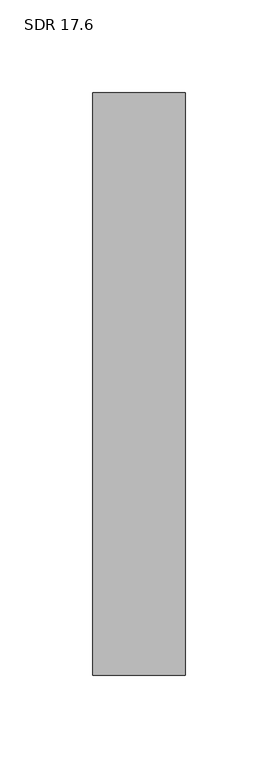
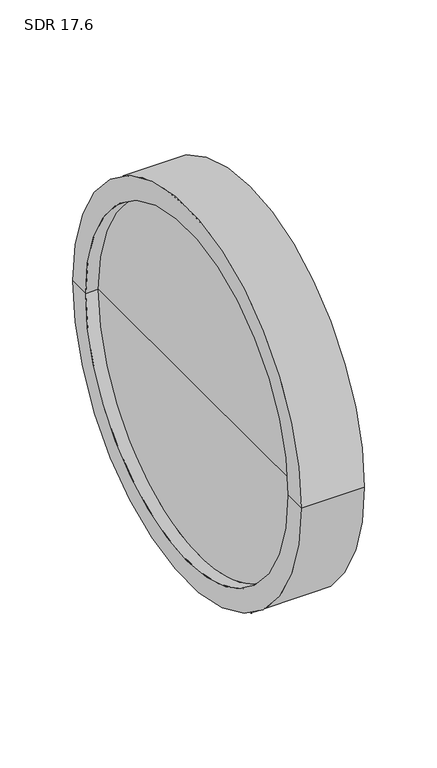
"""IFC4 building model written with IfcOpenShell, lengths in millimetres: pipe fitting geometry, Aquatherm - End Cap Butt-Weld : SDR 17.6."""

import ifcopenshell
import ifcopenshell.guid

model = None  # the IFC model being written
_history = None  # IfcOwnerHistory: only IFC2X3 demands one
_inside = {}  # id of a spatial element -> (the spatial element, [elements in it])
_under = {}  # id of a project, library or spatial element -> (it, [spatial elements below it])
_declared = {}  # id of a project -> (the project, [libraries it declares])
_typed = {}  # id of a type object -> (the type object, [elements of that type])
_made_of = {}  # id of a material, layer set ... -> (it, [elements and type objects made of it])


def new_model(schema):
    """Start an empty IFC model of exactly this schema.

    Asked for "IFC4X3", IfcOpenShell would pick the latest addendum, in which some entities
    have other attributes; the version numbers below select the first issue.
    IFC2X3 requires an IfcOwnerHistory on every rooted entity: one is made here for all.
    """
    global model, _history
    if schema == "IFC4X3":
        model = ifcopenshell.file(schema_version=(4, 3, 0, 0))
    else:
        model = ifcopenshell.file(schema=schema)
    _inside.clear()
    _under.clear()
    _declared.clear()
    _typed.clear()
    _made_of.clear()
    _history = None
    if model.schema == "IFC2X3":
        org = make("IfcOrganization", Name="unknown")
        user = make(
            "IfcPersonAndOrganization",
            ThePerson=make("IfcPerson", FamilyName="unknown"),
            TheOrganization=org,
        )
        app = make(
            "IfcApplication",
            ApplicationDeveloper=org,
            Version="unknown",
            ApplicationFullName="unknown",
            ApplicationIdentifier="unknown",
        )
        _history = make(
            "IfcOwnerHistory",
            OwningUser=user,
            OwningApplication=app,
            ChangeAction="ADDED",
            CreationDate=0,
        )
    return model


def make(cls, **values):
    """One entity of the class cls with the attributes given. An attribute that is None is left unset."""
    return model.create_entity(
        cls, **{name: value for name, value in values.items() if value is not None}
    )


def rooted(cls, **values):
    """An entity with a GlobalId (a new one), such as an element, a storey or a relation."""
    return make(cls, GlobalId=ifcopenshell.guid.new(), OwnerHistory=_history, **values)


def si_unit(unit_type, name, prefix=None):
    """IfcSIUnit, for example si_unit("LENGTHUNIT", "METRE", prefix="MILLI")."""
    return make("IfcSIUnit", UnitType=unit_type, Prefix=prefix, Name=name)


def assignment(units):
    """IfcUnitAssignment: the units of a project."""
    return None if units is None else make("IfcUnitAssignment", Units=units)


def point(xyz):
    """IfcCartesianPoint."""
    return None if xyz is None else make("IfcCartesianPoint", Coordinates=xyz)


def direction(xyz):
    """IfcDirection."""
    return None if xyz is None else make("IfcDirection", DirectionRatios=xyz)


def frame(location, z_axis=None, x_axis=None):
    """IfcAxis2Placement3D, a coordinate frame: its origin and axes. An axis left out is left unset."""
    return make(
        "IfcAxis2Placement3D",
        Location=point(location),
        Axis=direction(z_axis),
        RefDirection=direction(x_axis),
    )


def origin():
    """The frame at (0, 0, 0) with its axes left unset."""
    return frame((0.0, 0.0, 0.0))


def place(relative_to, where):
    """IfcLocalPlacement: puts the frame where relative to a parent placement (None: the world)."""
    return make(
        "IfcLocalPlacement", PlacementRelTo=relative_to, RelativePlacement=where
    )


def context(
    kind, dimensions, precision=None, world=None, true_north=None, identifier=None
):
    """IfcGeometricRepresentationContext, for example the 3D "Model" context."""
    return make(
        "IfcGeometricRepresentationContext",
        ContextIdentifier=identifier,
        ContextType=kind,
        CoordinateSpaceDimension=dimensions,
        Precision=precision,
        WorldCoordinateSystem=world,
        TrueNorth=true_north,
    )


def project(units=None, contexts=None):
    """IfcProject with its units and contexts."""
    return rooted(
        "IfcProject",
        Name="project",
        RepresentationContexts=contexts,
        UnitsInContext=assignment(units),
    )


def spatial(cls, under=None, at=None, **own):
    """A site, building, storey or space (cls), placed at a placement, below another one or the project."""
    s = rooted(cls, ObjectPlacement=at, **own)
    if under is not None:
        _under.setdefault(under.id(), (under, []))[1].append(s)
    return s


def polyline(points):
    """IfcPolyline through the points."""
    return make("IfcPolyline", Points=[point(p) for p in points])


def circle_curve(where, radius):
    """IfcCircle in the frame where."""
    return make("IfcCircle", Position=where, Radius=radius)


def shape(context_of_items, identifier, shape_type, items):
    """IfcShapeRepresentation: the items that make up one representation, for example the "Body"."""
    return make(
        "IfcShapeRepresentation",
        ContextOfItems=context_of_items,
        RepresentationIdentifier=identifier,
        RepresentationType=shape_type,
        Items=items,
    )


def source(mapping_origin, context_of_items, identifier, shape_type, items):
    """IfcRepresentationMap: a shape defined once, which mapped items show again and again."""
    return make(
        "IfcRepresentationMap",
        MappingOrigin=mapping_origin,
        MappedRepresentation=shape(context_of_items, identifier, shape_type, items),
    )


def transform(
    local_origin,
    x_axis=None,
    y_axis=None,
    z_axis=None,
    scale=None,
    scale2=None,
    scale3=None,
    uniform=True,
):
    """IfcCartesianTransformationOperator3D, or its non-uniform kind. x_axis, y_axis, z_axis: its Axis1, 2, 3."""
    if uniform:
        return make(
            "IfcCartesianTransformationOperator3D",
            Axis1=direction(x_axis),
            Axis2=direction(y_axis),
            LocalOrigin=point(local_origin),
            Scale=scale,
            Axis3=direction(z_axis),
        )
    return make(
        "IfcCartesianTransformationOperator3DnonUniform",
        Axis1=direction(x_axis),
        Axis2=direction(y_axis),
        LocalOrigin=point(local_origin),
        Scale=scale,
        Axis3=direction(z_axis),
        Scale2=scale2,
        Scale3=scale3,
    )


def mapped(mapping_source, mapping_target):
    """IfcMappedItem: shows the shape of a source again, moved by a transform."""
    return make(
        "IfcMappedItem", MappingSource=mapping_source, MappingTarget=mapping_target
    )


def made_of(thing, what):
    """Note that an element or type object is made of a material, layer set ...; save() writes the relation."""
    if what is not None:
        _made_of.setdefault(what.id(), (what, []))[1].append(thing)
    return thing


def element(
    cls,
    number,
    at=None,
    inside=None,
    cuts=None,
    type_object=None,
    material=None,
    context=None,
    identifier="Body",
    shape_type=None,
    held_by="IfcProductDefinitionShape",
    body=None,
    shapes=None,
    **own,
):
    """One element of the class cls, such as IfcWall. Its Tag is "e" and its number.

    at: its placement. inside: the storey or other place that contains it. cuts: it is an
    opening in that element (IfcRelVoidsElement). A single representation is given by context,
    identifier, shape_type and body (its items); several are given by shapes. held_by: the class
    of the entity that holds the representations. save() writes the other relations.
    """
    e = rooted(cls, Tag="e%d" % number, ObjectPlacement=at, **own)
    if body is not None:
        shapes = [shape(context, identifier, shape_type, body)]
    if shapes is not None:
        e.Representation = make(held_by, Representations=shapes)
    if inside is not None:
        _inside.setdefault(inside.id(), (inside, []))[1].append(e)
    if cuts is not None:
        rooted(
            "IfcRelVoidsElement", RelatingBuildingElement=cuts, RelatedOpeningElement=e
        )
    if type_object is not None:
        _typed.setdefault(type_object.id(), (type_object, []))[1].append(e)
    return made_of(e, material)


def aggregate(whole, parts):
    """IfcRelAggregates: a whole, such as a stair, and the parts it consists of."""
    return rooted("IfcRelAggregates", RelatingObject=whole, RelatedObjects=parts)


def save(model, path):
    """Write the relations noted so far, then the file.

    IfcRelAggregates (storeys below a building ...), IfcRelContainedInSpatialStructure (elements
    in a storey), IfcRelDefinesByType, IfcRelAssociatesMaterial and IfcRelDeclares: one each for
    every whole, place, type object, material and project.
    """
    for whole, parts in _under.values():
        aggregate(whole, parts)
    for where, things in _inside.values():
        rooted(
            "IfcRelContainedInSpatialStructure",
            RelatedElements=things,
            RelatingStructure=where,
        )
    for kind, things in _typed.values():
        rooted("IfcRelDefinesByType", RelatedObjects=things, RelatingType=kind)
    for what, things in _made_of.values():
        rooted("IfcRelAssociatesMaterial", RelatedObjects=things, RelatingMaterial=what)
    for by, libraries in _declared.values():
        rooted("IfcRelDeclares", RelatingContext=by, RelatedDefinitions=libraries)
    model.write(path)


def plane_surface(at):
    """IfcPlane: the flat surface through the origin of the frame at, square to its z axis."""
    return make("IfcPlane", Position=at)


def cylinder_surface(at, radius):
    """IfcCylindricalSurface: all points at the distance radius from the z axis of the frame at."""
    return make("IfcCylindricalSurface", Position=at, Radius=radius)


def revolved_surface(curve, axis_point, axis_direction):
    """IfcSurfaceOfRevolution: the curve turned about the line through axis_point along axis_direction."""
    return make(
        "IfcSurfaceOfRevolution",
        SweptCurve=make("IfcArbitraryOpenProfileDef", ProfileType="CURVE", Curve=curve),
        AxisPosition=make("IfcAxis1Placement", Location=point(axis_point), Axis=direction(axis_direction)),
    )


def advanced_brep(points, edges, surfaces, faces):
    """IfcAdvancedBrep: a solid bounded by faces that lie on surfaces and meet in shared edges.

    An edge is (start, end): straight between two places in points (the first is 0);
    or (start, end, curve); or (start, end, curve, False) where it runs against its curve.
    A face is (place in surfaces, loops), or (place, loops, False) where it looks against
    its surface's normal. A loop lists edges by number (the first is 1), with a minus sign
    where the edge is run from its end to its start. The first loop is the outer one.
    """
    corners = [point(p) for p in points]
    vertices = [make("IfcVertexPoint", VertexGeometry=c) for c in corners]
    made = []
    for start, end, *more in edges:
        made.append(
            make(
                "IfcEdgeCurve",
                EdgeStart=vertices[start],
                EdgeEnd=vertices[end],
                EdgeGeometry=more[0] if more else make("IfcPolyline", Points=[corners[start], corners[end]]),
                SameSense=more[1] if len(more) > 1 else True,
            )
        )
    hull = []
    for where, loops, *sense in faces:
        bounds = []
        for j, loop in enumerate(loops):
            ring = [make("IfcOrientedEdge", EdgeElement=made[abs(k) - 1], Orientation=k > 0) for k in loop]
            bounds.append(
                make(
                    "IfcFaceOuterBound" if j == 0 else "IfcFaceBound",
                    Bound=make("IfcEdgeLoop", EdgeList=ring),
                    Orientation=True,
                )
            )
        hull.append(make("IfcAdvancedFace", Bounds=bounds, FaceSurface=surfaces[where], SameSense=sense[0] if sense else True))
    return make("IfcAdvancedBrep", Outer=make("IfcClosedShell", CfsFaces=hull))


def sdr_17_6_88e081fd(model_context):
    return source(origin(), model_context, "Body", "AdvancedBrep", [
        advanced_brep(
        [(50.038, -157.48, 0.0), (50.038, 157.48, 0.0), (50.038, 0.0, 0.0), (10.16, 0.0, 0.0), (10.16, 139.7, 0.0), (10.16, -139.7, 0.0), (0.0, 139.7, 0.0), (0.0, -139.7, 0.0), (0.0, 157.48, 0.0), (0.0, -157.48, 0.0)],
        [
            (0, 1, circle_curve(frame((50.038, 0.0, 0.0), z_axis=(1.0, 0.0, 0.0), x_axis=(0.0, 1.0, 0.0)), 157.48)),
            (1, 2),
            (2, 0),
            (1, 0, circle_curve(frame((50.038, 0.0, 0.0), z_axis=(1.0, 0.0, 0.0), x_axis=(0.0, 1.0, 0.0)), 157.48)),
            (3, 4),
            (4, 5, circle_curve(frame((10.16, 0.0, 0.0), z_axis=(-1.0, 0.0, 0.0), x_axis=(0.0, 1.0, 0.0)), 139.7)),
            (5, 3),
            (5, 4, circle_curve(frame((10.16, 0.0, 0.0), z_axis=(-1.0, 0.0, 0.0), x_axis=(0.0, 1.0, 0.0)), 139.7)),
            (4, 6),
            (6, 7, circle_curve(frame((0.0, 0.0, 0.0), z_axis=(-1.0, 0.0, 0.0), x_axis=(0.0, 1.0, 0.0)), 139.7)),
            (7, 5),
            (7, 6, circle_curve(frame((0.0, 0.0, 0.0), z_axis=(-1.0, 0.0, 0.0), x_axis=(0.0, 1.0, 0.0)), 139.7)),
            (6, 8),
            (8, 9, circle_curve(frame((0.0, 0.0, 0.0), z_axis=(-1.0, 0.0, 0.0), x_axis=(0.0, 1.0, 0.0)), 157.48)),
            (9, 7),
            (9, 8, circle_curve(frame((0.0, 0.0, 0.0), z_axis=(-1.0, 0.0, 0.0), x_axis=(0.0, 1.0, 0.0)), 157.48)),
            (8, 1),
            (0, 9),
        ],
        [
            plane_surface(frame((50.038, 0.0, 0.0), z_axis=(1.0, 0.0, 0.0), x_axis=(0.0, 1.0, 0.0))),
            plane_surface(frame((10.16, 0.0, 0.0), z_axis=(-1.0, 0.0, 0.0), x_axis=(0.0, 1.0, 0.0))),
            revolved_surface(polyline([(0.0, 139.7, 0.0), (10.160000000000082, 139.7, 0.0)]), (-1393.952, 0.0, 0.0), (-1.0, 0.0, 0.0)),
            plane_surface(frame((0.0, 0.0, 0.0), z_axis=(-1.0, 0.0, 0.0), x_axis=(0.0, 1.0, 0.0))),
            cylinder_surface(frame((-1393.952, 0.0, 0.0), z_axis=(-1.0, 0.0, 0.0), x_axis=(0.0, 1.0, 0.0)), 157.48),
        ],
        [
            (0, [[1, 2, 3]]),
            (0, [[4, -3, -2]]),
            (1, [[5, 6, 7]]),
            (1, [[-7, 8, -5]]),
            (2, [[-6, 9, 10, 11]]),
            (2, [[-8, -11, 12, -9]]),
            (3, [[-10, 13, 14, 15]]),
            (3, [[-12, -15, 16, -13]]),
            (4, [[-14, 17, -1, 18]]),
            (4, [[-16, -18, -4, -17]]),
        ],
    ),
    ])


if __name__ == "__main__":
    model = new_model("IFC4")
    model_context = context("Model", 3, world=origin())
    ifc_project = project(units=[si_unit("LENGTHUNIT", "METRE", prefix="MILLI")], contexts=[model_context])
    site = spatial("IfcSite", under=ifc_project)
    building = spatial("IfcBuilding", under=site)
    placement = place(None, origin())
    sdr_17_6_shape = sdr_17_6_88e081fd(model_context)
    element("IfcPipeFitting", 1, ObjectType="Aquatherm - End Cap Butt-Weld : SDR 17.6", at=placement, inside=building, context=model_context, shape_type="MappedRepresentation", body=[
        mapped(sdr_17_6_shape, transform((0.0, 0.0, 0.0), x_axis=(1.0, 0.0, 0.0), y_axis=(0.0, 1.0, 0.0), z_axis=(0.0, 0.0, 1.0))),
    ])
    save(model, "model.ifc")
